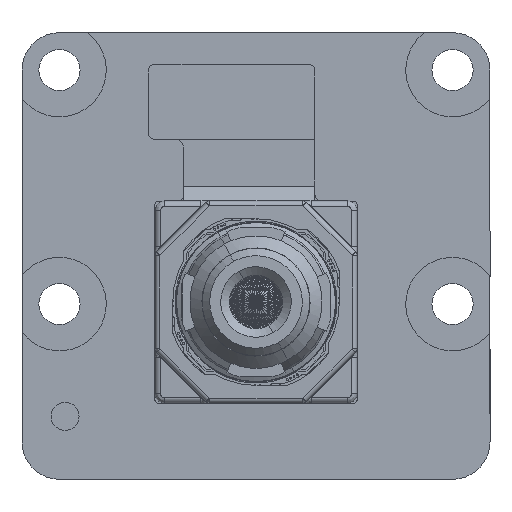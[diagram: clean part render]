
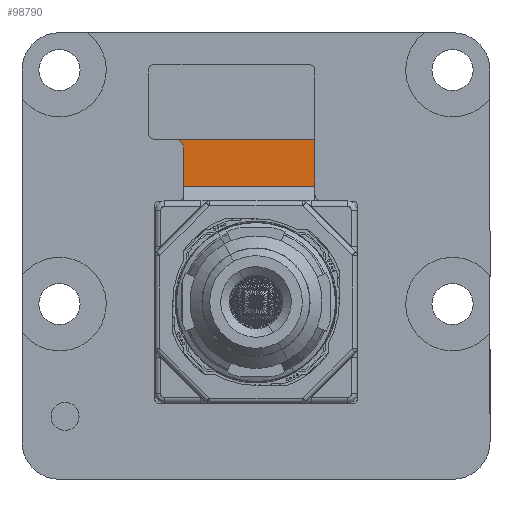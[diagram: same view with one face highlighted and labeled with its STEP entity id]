
A CAD part, top view. The second image highlights one B-rep face of the part: STEP entity #98790.
In plain terms, the highlighted planar face has unit normal (0, 0, 1) as drawn and (0, 0, -1) by its records, which use the part's own axes.
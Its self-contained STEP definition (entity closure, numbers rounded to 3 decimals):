
#97581 = PLANE('',#97582);
#97582 = AXIS2_PLACEMENT_3D('',#97583,#97584,#97585);
#97583 = CARTESIAN_POINT('',(6.2,16.35,-1.83));
#97584 = DIRECTION('',(0.,1.,0.));
#97585 = DIRECTION('',(1.,0.,0.));
#97747 = PLANE('',#97748);
#97748 = AXIS2_PLACEMENT_3D('',#97749,#97750,#97751);
#97749 = CARTESIAN_POINT('',(5.7,9.35,-1.72));
#97750 = DIRECTION('',(0.,-1.,0.));
#97751 = DIRECTION('',(1.,0.,0.));
#97803 = PLANE('',#97804);
#97804 = AXIS2_PLACEMENT_3D('',#97805,#97806,#97807);
#97805 = CARTESIAN_POINT('',(5.7,17.9,-1.72));
#97806 = DIRECTION('',(1.,0.,0.));
#97807 = DIRECTION('',(0.,1.,0.));
#97900 = VERTEX_POINT('',#97901);
#97901 = CARTESIAN_POINT('',(5.7,9.35,-1.96));
#97922 = EDGE_CURVE('',#97900,#97923,#97925,.T.);
#97923 = VERTEX_POINT('',#97924);
#97924 = CARTESIAN_POINT('',(8.2,9.35,-1.96));
#97925 = SURFACE_CURVE('',#97926,(#97930,#97937),.PCURVE_S1.);
#97926 = LINE('',#97927,#97928);
#97927 = CARTESIAN_POINT('',(5.7,9.35,-1.96));
#97928 = VECTOR('',#97929,1.);
#97929 = DIRECTION('',(1.,0.,0.));
#97930 = PCURVE('',#97747,#97931);
#97931 = DEFINITIONAL_REPRESENTATION('',(#97932),#97936);
#97932 = LINE('',#97933,#97934);
#97933 = CARTESIAN_POINT('',(0.,-0.24));
#97934 = VECTOR('',#97935,1.);
#97935 = DIRECTION('',(1.,0.));
#97936 = ( GEOMETRIC_REPRESENTATION_CONTEXT(2) 
PARAMETRIC_REPRESENTATION_CONTEXT() REPRESENTATION_CONTEXT('2D SPACE',''
  ) );
#97937 = PCURVE('',#97938,#97943);
#97938 = PLANE('',#97939);
#97939 = AXIS2_PLACEMENT_3D('',#97940,#97941,#97942);
#97940 = CARTESIAN_POINT('',(14.4,12.5,-1.96));
#97941 = DIRECTION('',(0.,0.,-1.));
#97942 = DIRECTION('',(0.,1.,0.));
#97943 = DEFINITIONAL_REPRESENTATION('',(#97944),#97948);
#97944 = LINE('',#97945,#97946);
#97945 = CARTESIAN_POINT('',(-3.15,-8.7));
#97946 = VECTOR('',#97947,1.);
#97947 = DIRECTION('',(0.,1.));
#97948 = ( GEOMETRIC_REPRESENTATION_CONTEXT(2) 
PARAMETRIC_REPRESENTATION_CONTEXT() REPRESENTATION_CONTEXT('2D SPACE',''
  ) );
#97966 = PLANE('',#97967);
#97967 = AXIS2_PLACEMENT_3D('',#97968,#97969,#97970);
#97968 = CARTESIAN_POINT('',(9.,12.5,-2.76));
#97969 = DIRECTION('',(-0.707,0.,
    -0.707));
#97970 = DIRECTION('',(0.,-1.,0.));
#98223 = CYLINDRICAL_SURFACE('',#98224,0.5);
#98224 = AXIS2_PLACEMENT_3D('',#98225,#98226,#98227);
#98225 = CARTESIAN_POINT('',(6.2,16.85,-1.83));
#98226 = DIRECTION('',(0.,0.,1.));
#98227 = DIRECTION('',(0.,1.,0.));
#98239 = VERTEX_POINT('',#98240);
#98240 = CARTESIAN_POINT('',(5.7,16.848,-1.96));
#98261 = EDGE_CURVE('',#98262,#98239,#98264,.T.);
#98262 = VERTEX_POINT('',#98263);
#98263 = CARTESIAN_POINT('',(6.2,16.35,-1.96));
#98264 = SURFACE_CURVE('',#98265,(#98270,#98277),.PCURVE_S1.);
#98265 = CIRCLE('',#98266,0.5);
#98266 = AXIS2_PLACEMENT_3D('',#98267,#98268,#98269);
#98267 = CARTESIAN_POINT('',(6.2,16.85,-1.96));
#98268 = DIRECTION('',(0.,0.,-1.));
#98269 = DIRECTION('',(0.,-1.,0.));
#98270 = PCURVE('',#98223,#98271);
#98271 = DEFINITIONAL_REPRESENTATION('',(#98272),#98276);
#98272 = LINE('',#98273,#98274);
#98273 = CARTESIAN_POINT('',(3.142,-0.13));
#98274 = VECTOR('',#98275,1.);
#98275 = DIRECTION('',(-1.,0.));
#98276 = ( GEOMETRIC_REPRESENTATION_CONTEXT(2) 
PARAMETRIC_REPRESENTATION_CONTEXT() REPRESENTATION_CONTEXT('2D SPACE',''
  ) );
#98277 = PCURVE('',#97938,#98278);
#98278 = DEFINITIONAL_REPRESENTATION('',(#98279),#98283);
#98279 = CIRCLE('',#98280,0.5);
#98280 = AXIS2_PLACEMENT_2D('',#98281,#98282);
#98281 = CARTESIAN_POINT('',(4.35,-8.2));
#98282 = DIRECTION('',(-1.,0.));
#98283 = ( GEOMETRIC_REPRESENTATION_CONTEXT(2) 
PARAMETRIC_REPRESENTATION_CONTEXT() REPRESENTATION_CONTEXT('2D SPACE',''
  ) );
#98311 = EDGE_CURVE('',#98239,#97900,#98312,.T.);
#98312 = SURFACE_CURVE('',#98313,(#98317,#98324),.PCURVE_S1.);
#98313 = LINE('',#98314,#98315);
#98314 = CARTESIAN_POINT('',(5.7,16.848,-1.96));
#98315 = VECTOR('',#98316,1.);
#98316 = DIRECTION('',(0.,-1.,-0.));
#98317 = PCURVE('',#97803,#98318);
#98318 = DEFINITIONAL_REPRESENTATION('',(#98319),#98323);
#98319 = LINE('',#98320,#98321);
#98320 = CARTESIAN_POINT('',(-1.052,-0.24));
#98321 = VECTOR('',#98322,1.);
#98322 = DIRECTION('',(-1.,0.));
#98323 = ( GEOMETRIC_REPRESENTATION_CONTEXT(2) 
PARAMETRIC_REPRESENTATION_CONTEXT() REPRESENTATION_CONTEXT('2D SPACE',''
  ) );
#98324 = PCURVE('',#97938,#98325);
#98325 = DEFINITIONAL_REPRESENTATION('',(#98326),#98330);
#98326 = LINE('',#98327,#98328);
#98327 = CARTESIAN_POINT('',(4.348,-8.7));
#98328 = VECTOR('',#98329,1.);
#98329 = DIRECTION('',(-1.,0.));
#98330 = ( GEOMETRIC_REPRESENTATION_CONTEXT(2) 
PARAMETRIC_REPRESENTATION_CONTEXT() REPRESENTATION_CONTEXT('2D SPACE',''
  ) );
#98790 = ADVANCED_FACE('',(#98791),#97938,.T.);
#98791 = FACE_BOUND('',#98792,.T.);
#98792 = EDGE_LOOP('',(#98793,#98794,#98795,#98796,#98819));
#98793 = ORIENTED_EDGE('',*,*,#97922,.F.);
#98794 = ORIENTED_EDGE('',*,*,#98311,.F.);
#98795 = ORIENTED_EDGE('',*,*,#98261,.F.);
#98796 = ORIENTED_EDGE('',*,*,#98797,.F.);
#98797 = EDGE_CURVE('',#98798,#98262,#98800,.T.);
#98798 = VERTEX_POINT('',#98799);
#98799 = CARTESIAN_POINT('',(8.2,16.35,-1.96));
#98800 = SURFACE_CURVE('',#98801,(#98805,#98812),.PCURVE_S1.);
#98801 = LINE('',#98802,#98803);
#98802 = CARTESIAN_POINT('',(8.2,16.35,-1.96));
#98803 = VECTOR('',#98804,1.);
#98804 = DIRECTION('',(-1.,0.,0.));
#98805 = PCURVE('',#97938,#98806);
#98806 = DEFINITIONAL_REPRESENTATION('',(#98807),#98811);
#98807 = LINE('',#98808,#98809);
#98808 = CARTESIAN_POINT('',(3.85,-6.2));
#98809 = VECTOR('',#98810,1.);
#98810 = DIRECTION('',(0.,-1.));
#98811 = ( GEOMETRIC_REPRESENTATION_CONTEXT(2) 
PARAMETRIC_REPRESENTATION_CONTEXT() REPRESENTATION_CONTEXT('2D SPACE',''
  ) );
#98812 = PCURVE('',#97581,#98813);
#98813 = DEFINITIONAL_REPRESENTATION('',(#98814),#98818);
#98814 = LINE('',#98815,#98816);
#98815 = CARTESIAN_POINT('',(2.,0.13));
#98816 = VECTOR('',#98817,1.);
#98817 = DIRECTION('',(-1.,0.));
#98818 = ( GEOMETRIC_REPRESENTATION_CONTEXT(2) 
PARAMETRIC_REPRESENTATION_CONTEXT() REPRESENTATION_CONTEXT('2D SPACE',''
  ) );
#98819 = ORIENTED_EDGE('',*,*,#98820,.F.);
#98820 = EDGE_CURVE('',#97923,#98798,#98821,.T.);
#98821 = SURFACE_CURVE('',#98822,(#98826,#98833),.PCURVE_S1.);
#98822 = LINE('',#98823,#98824);
#98823 = CARTESIAN_POINT('',(8.2,9.35,-1.96));
#98824 = VECTOR('',#98825,1.);
#98825 = DIRECTION('',(0.,1.,0.));
#98826 = PCURVE('',#97938,#98827);
#98827 = DEFINITIONAL_REPRESENTATION('',(#98828),#98832);
#98828 = LINE('',#98829,#98830);
#98829 = CARTESIAN_POINT('',(-3.15,-6.2));
#98830 = VECTOR('',#98831,1.);
#98831 = DIRECTION('',(1.,0.));
#98832 = ( GEOMETRIC_REPRESENTATION_CONTEXT(2) 
PARAMETRIC_REPRESENTATION_CONTEXT() REPRESENTATION_CONTEXT('2D SPACE',''
  ) );
#98833 = PCURVE('',#97966,#98834);
#98834 = DEFINITIONAL_REPRESENTATION('',(#98835),#98839);
#98835 = LINE('',#98836,#98837);
#98836 = CARTESIAN_POINT('',(3.15,1.131));
#98837 = VECTOR('',#98838,1.);
#98838 = DIRECTION('',(-1.,0.));
#98839 = ( GEOMETRIC_REPRESENTATION_CONTEXT(2) 
PARAMETRIC_REPRESENTATION_CONTEXT() REPRESENTATION_CONTEXT('2D SPACE',''
  ) );
